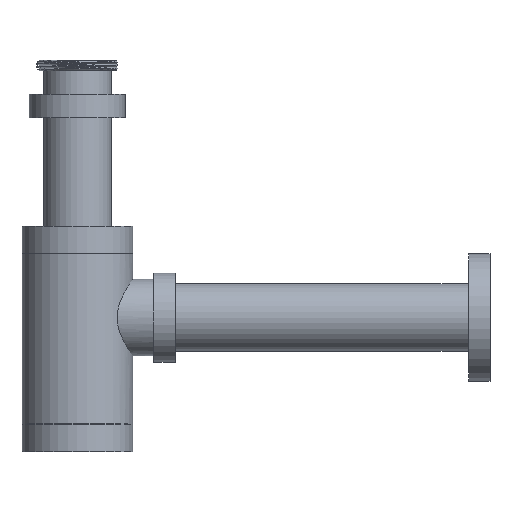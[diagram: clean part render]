
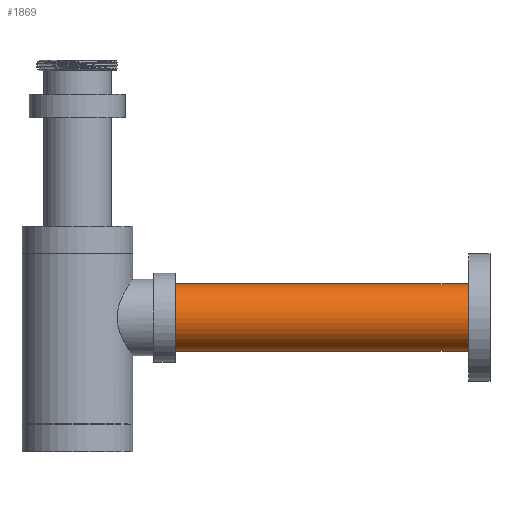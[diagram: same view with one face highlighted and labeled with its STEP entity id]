
A CAD part, top view. The second image highlights one B-rep face of the part: STEP entity #1869.
In plain terms, the highlighted cylindrical face has radius 15.85 mm (diameter 31.7 mm), a partial arc.
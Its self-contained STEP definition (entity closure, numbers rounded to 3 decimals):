
#744=CARTESIAN_POINT('',(46.,63.,0.));
#745=DIRECTION('',(1.,0.,0.));
#746=DIRECTION('',(0.,1.,0.));
#747=AXIS2_PLACEMENT_3D('',#744,#745,#746);
#754=DIRECTION('',(1.,0.,0.));
#755=VECTOR('',#754,144.3);
#756=CARTESIAN_POINT('',(46.,78.85,0.));
#757=LINE('',#756,#755);
#758=DIRECTION('',(-1.,0.,0.));
#759=VECTOR('',#758,144.3);
#760=CARTESIAN_POINT('',(190.3,47.15,0.));
#761=LINE('',#760,#759);
#767=CARTESIAN_POINT('',(190.3,63.,0.));
#768=DIRECTION('',(1.,0.,0.));
#769=DIRECTION('',(0.,1.,0.));
#770=AXIS2_PLACEMENT_3D('',#767,#768,#769);
#898=CARTESIAN_POINT('',(46.,78.85,0.));
#899=CARTESIAN_POINT('',(46.,47.15,0.));
#900=VERTEX_POINT('',#898);
#901=VERTEX_POINT('',#899);
#910=CARTESIAN_POINT('',(190.3,47.15,0.));
#911=CARTESIAN_POINT('',(190.3,78.85,0.));
#912=VERTEX_POINT('',#910);
#913=VERTEX_POINT('',#911);
#1855=CARTESIAN_POINT('',(0.,63.,0.));
#1856=DIRECTION('',(1.,0.,0.));
#1857=DIRECTION('',(0.,-1.,0.));
#1858=AXIS2_PLACEMENT_3D('',#1855,#1856,#1857);
#1859=CYLINDRICAL_SURFACE('',#1858,15.85);
#1861=ORIENTED_EDGE('',*,*,#1860,.T.);
#1863=ORIENTED_EDGE('',*,*,#1862,.T.);
#1865=ORIENTED_EDGE('',*,*,#1864,.T.);
#1866=ORIENTED_EDGE('',*,*,#1848,.F.);
#1867=EDGE_LOOP('',(#1861,#1863,#1865,#1866));
#1868=FACE_OUTER_BOUND('',#1867,.F.);
#1869=ADVANCED_FACE('',(#1868),#1859,.T.);
#748=CIRCLE('',#747,15.85);
#771=CIRCLE('',#770,15.85);
#1848=EDGE_CURVE('',#900,#901,#748,.T.);
#1860=EDGE_CURVE('',#900,#913,#757,.T.);
#1862=EDGE_CURVE('',#913,#912,#771,.T.);
#1864=EDGE_CURVE('',#912,#901,#761,.T.);
